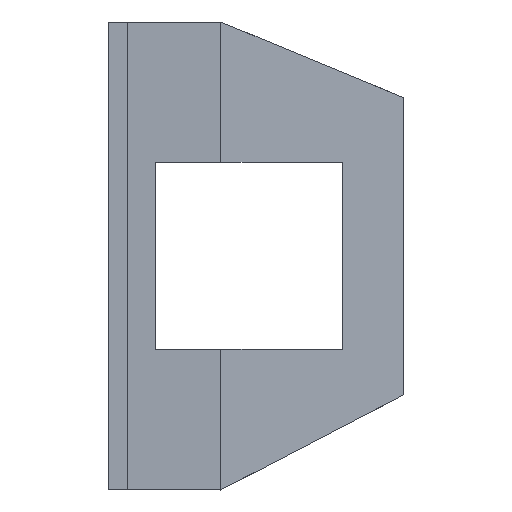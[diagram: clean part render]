
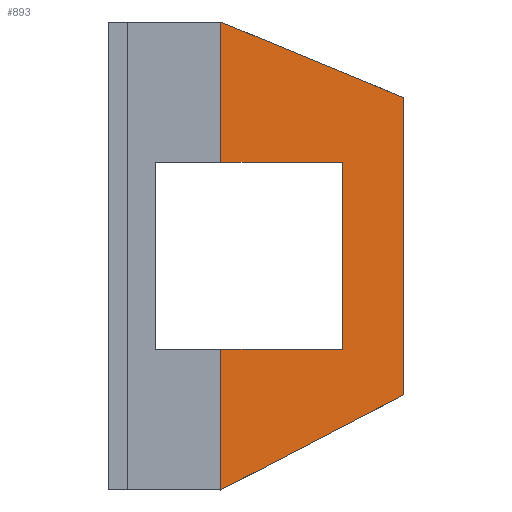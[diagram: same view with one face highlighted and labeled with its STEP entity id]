
A CAD part, left-side view. The second image highlights one B-rep face of the part: STEP entity #893.
In plain terms, the highlighted planar face has unit normal (-0.707, -0.707, 0).
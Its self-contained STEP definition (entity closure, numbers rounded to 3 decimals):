
#45=PLANE('',#969);
#95=FACE_OUTER_BOUND('',#150,.T.);
#150=EDGE_LOOP('',(#758,#759,#760,#761,#762,#763,#764,#765));
#204=LINE('',#1361,#304);
#208=LINE('',#1369,#308);
#238=LINE('',#1426,#338);
#243=LINE('',#1433,#343);
#253=LINE('',#1453,#353);
#254=LINE('',#1455,#354);
#255=LINE('',#1457,#355);
#256=LINE('',#1458,#356);
#304=VECTOR('',#1108,10.);
#308=VECTOR('',#1112,10.);
#338=VECTOR('',#1158,10.);
#343=VECTOR('',#1165,10.);
#353=VECTOR('',#1183,10.);
#354=VECTOR('',#1184,10.);
#355=VECTOR('',#1185,10.);
#356=VECTOR('',#1186,10.);
#443=VERTEX_POINT('',#1359);
#444=VERTEX_POINT('',#1360);
#447=VERTEX_POINT('',#1366);
#448=VERTEX_POINT('',#1368);
#467=VERTEX_POINT('',#1425);
#468=VERTEX_POINT('',#1431);
#475=VERTEX_POINT('',#1454);
#476=VERTEX_POINT('',#1456);
#532=EDGE_CURVE('',#443,#444,#204,.T.);
#536=EDGE_CURVE('',#448,#447,#208,.T.);
#566=EDGE_CURVE('',#467,#448,#238,.T.);
#571=EDGE_CURVE('',#444,#468,#243,.T.);
#581=EDGE_CURVE('',#467,#468,#253,.T.);
#582=EDGE_CURVE('',#475,#447,#254,.T.);
#583=EDGE_CURVE('',#476,#475,#255,.T.);
#584=EDGE_CURVE('',#443,#476,#256,.T.);
#758=ORIENTED_EDGE('',*,*,#571,.T.);
#759=ORIENTED_EDGE('',*,*,#581,.F.);
#760=ORIENTED_EDGE('',*,*,#566,.T.);
#761=ORIENTED_EDGE('',*,*,#536,.T.);
#762=ORIENTED_EDGE('',*,*,#582,.F.);
#763=ORIENTED_EDGE('',*,*,#583,.F.);
#764=ORIENTED_EDGE('',*,*,#584,.F.);
#765=ORIENTED_EDGE('',*,*,#532,.T.);
#893=ADVANCED_FACE('',(#95),#45,.F.);
#969=AXIS2_PLACEMENT_3D('',#1452,#1181,#1182);
#1108=DIRECTION('',(0.,0.,-1.));
#1112=DIRECTION('',(0.,0.,-1.));
#1158=DIRECTION('',(-0.679,0.679,0.281));
#1165=DIRECTION('',(0.664,-0.664,0.345));
#1181=DIRECTION('center_axis',(0.707,0.707,0.));
#1182=DIRECTION('ref_axis',(0.,0.,-1.));
#1183=DIRECTION('',(0.,0.,-1.));
#1184=DIRECTION('',(-0.707,0.707,0.));
#1185=DIRECTION('',(0.,0.,1.));
#1186=DIRECTION('',(0.707,-0.707,0.));
#1359=CARTESIAN_POINT('',(-37.,-22.,0.));
#1360=CARTESIAN_POINT('',(-37.,-22.,-15.));
#1361=CARTESIAN_POINT('',(-37.,-22.,10.115));
#1366=CARTESIAN_POINT('',(-37.,-22.,20.));
#1368=CARTESIAN_POINT('',(-37.,-22.,34.943));
#1369=CARTESIAN_POINT('',(-37.,-22.,10.115));
#1425=CARTESIAN_POINT('',(-17.5,-41.5,26.866));
#1426=CARTESIAN_POINT('',(-19.256,-39.744,27.593));
#1431=CARTESIAN_POINT('',(-17.5,-41.5,-4.849));
#1433=CARTESIAN_POINT('',(-19.206,-39.794,-5.737));
#1452=CARTESIAN_POINT('Origin',(-28.875,-30.125,10.245));
#1453=CARTESIAN_POINT('',(-17.5,-41.5,10.627));
#1454=CARTESIAN_POINT('',(-24.,-35.,20.));
#1455=CARTESIAN_POINT('',(-29.792,-29.208,20.));
#1456=CARTESIAN_POINT('',(-24.,-35.,0.));
#1457=CARTESIAN_POINT('',(-24.,-35.,10.122));
#1458=CARTESIAN_POINT('',(-29.792,-29.208,0.));
